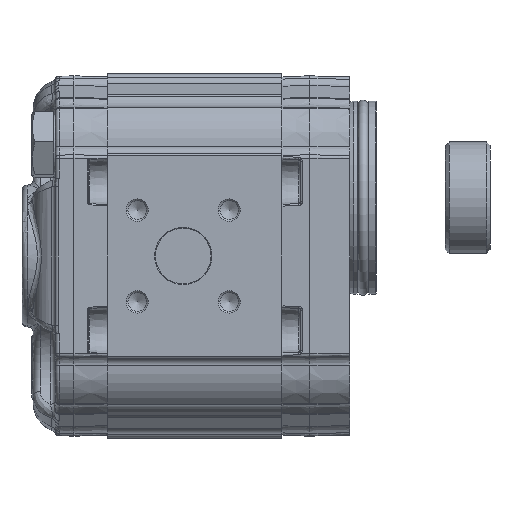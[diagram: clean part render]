
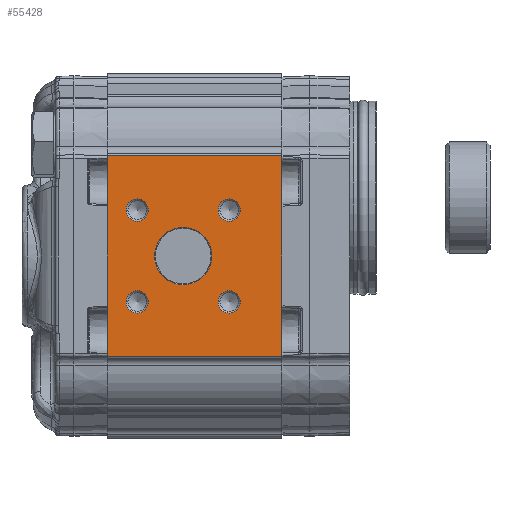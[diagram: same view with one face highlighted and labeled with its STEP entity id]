
A CAD part, left-side view. The second image highlights one B-rep face of the part: STEP entity #55428.
In plain terms, the highlighted planar face has unit normal (-1, 0, 0).
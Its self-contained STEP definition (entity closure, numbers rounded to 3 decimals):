
#3816=LINE('',#86627,#5917);
#3817=LINE('',#86630,#5918);
#3818=LINE('',#86632,#5919);
#3819=LINE('',#86634,#5920);
#5917=VECTOR('',#65821,1000.);
#5918=VECTOR('',#65822,1000.);
#5919=VECTOR('',#65823,1000.);
#5920=VECTOR('',#65824,1000.);
#13653=ORIENTED_EDGE('',*,*,#22654,.T.);
#13654=ORIENTED_EDGE('',*,*,#22655,.T.);
#13655=ORIENTED_EDGE('',*,*,#22656,.T.);
#13656=ORIENTED_EDGE('',*,*,#22657,.T.);
#13657=ORIENTED_EDGE('',*,*,#22658,.T.);
#13658=ORIENTED_EDGE('',*,*,#22659,.F.);
#13659=ORIENTED_EDGE('',*,*,#22660,.F.);
#13660=ORIENTED_EDGE('',*,*,#22661,.T.);
#13661=ORIENTED_EDGE('',*,*,#22662,.T.);
#22654=EDGE_CURVE('',#27475,#27475,#30380,.F.);
#22655=EDGE_CURVE('',#27476,#27476,#30381,.F.);
#22656=EDGE_CURVE('',#27477,#27477,#30382,.F.);
#22657=EDGE_CURVE('',#27478,#27478,#30383,.F.);
#22658=EDGE_CURVE('',#27479,#27479,#30384,.F.);
#22659=EDGE_CURVE('',#27480,#27481,#3816,.T.);
#22660=EDGE_CURVE('',#27482,#27480,#3817,.T.);
#22661=EDGE_CURVE('',#27482,#27483,#3818,.T.);
#22662=EDGE_CURVE('',#27483,#27481,#3819,.T.);
#27475=VERTEX_POINT('',#86618);
#27476=VERTEX_POINT('',#86620);
#27477=VERTEX_POINT('',#86622);
#27478=VERTEX_POINT('',#86624);
#27479=VERTEX_POINT('',#86626);
#27480=VERTEX_POINT('',#86628);
#27481=VERTEX_POINT('',#86629);
#27482=VERTEX_POINT('',#86631);
#27483=VERTEX_POINT('',#86633);
#30380=CIRCLE('',#58907,7.7);
#30381=CIRCLE('',#58908,3.);
#30382=CIRCLE('',#58909,3.);
#30383=CIRCLE('',#58910,3.);
#30384=CIRCLE('',#58911,3.);
#32335=EDGE_LOOP('',(#13653));
#32336=EDGE_LOOP('',(#13654));
#32337=EDGE_LOOP('',(#13655));
#32338=EDGE_LOOP('',(#13656));
#32339=EDGE_LOOP('',(#13657));
#32340=EDGE_LOOP('',(#13658,#13659,#13660,#13661));
#35079=FACE_BOUND('',#32335,.T.);
#35080=FACE_BOUND('',#32336,.T.);
#35081=FACE_BOUND('',#32337,.T.);
#35082=FACE_BOUND('',#32338,.T.);
#35083=FACE_BOUND('',#32339,.T.);
#35084=FACE_BOUND('',#32340,.T.);
#36878=PLANE('',#58906);
#55428=ADVANCED_FACE('',(#35079,#35080,#35081,#35082,#35083,#35084),#36878,
 .T.);
#58906=AXIS2_PLACEMENT_3D('',#86616,#65809,#65810);
#58907=AXIS2_PLACEMENT_3D('',#86617,#65811,#65812);
#58908=AXIS2_PLACEMENT_3D('',#86619,#65813,#65814);
#58909=AXIS2_PLACEMENT_3D('',#86621,#65815,#65816);
#58910=AXIS2_PLACEMENT_3D('',#86623,#65817,#65818);
#58911=AXIS2_PLACEMENT_3D('',#86625,#65819,#65820);
#65809=DIRECTION('',(-1.,0.,0.));
#65810=DIRECTION('',(0.,0.,1.));
#65811=DIRECTION('',(-1.,0.,0.));
#65812=DIRECTION('',(0.,0.,1.));
#65813=DIRECTION('',(-1.,0.,0.));
#65814=DIRECTION('',(0.,0.,1.));
#65815=DIRECTION('',(-1.,0.,0.));
#65816=DIRECTION('',(0.,0.,1.));
#65817=DIRECTION('',(-1.,0.,0.));
#65818=DIRECTION('',(0.,0.,1.));
#65819=DIRECTION('',(-1.,0.,0.));
#65820=DIRECTION('',(0.,0.,1.));
#65821=DIRECTION('',(0.,0.,-1.));
#65822=DIRECTION('',(0.,-1.,0.));
#65823=DIRECTION('',(0.,0.,-1.));
#65824=DIRECTION('',(0.,-1.,0.));
#86616=CARTESIAN_POINT('',(-43.,47.,27.048));
#86617=CARTESIAN_POINT('',(-43.,26.6,0.));
#86618=CARTESIAN_POINT('',(-43.,26.6,7.7));
#86619=CARTESIAN_POINT('',(-43.,38.974,-12.374));
#86620=CARTESIAN_POINT('',(-43.,38.974,-9.374));
#86621=CARTESIAN_POINT('',(-43.,38.974,12.374));
#86622=CARTESIAN_POINT('',(-43.,38.974,15.374));
#86623=CARTESIAN_POINT('',(-43.,14.226,12.374));
#86624=CARTESIAN_POINT('',(-43.,14.226,15.374));
#86625=CARTESIAN_POINT('',(-43.,14.226,-12.374));
#86626=CARTESIAN_POINT('',(-43.,14.226,-9.374));
#86627=CARTESIAN_POINT('',(-43.,0.,27.048));
#86628=CARTESIAN_POINT('',(-43.,0.,27.048));
#86629=CARTESIAN_POINT('',(-43.,0.,-27.048));
#86630=CARTESIAN_POINT('',(-43.,47.,27.048));
#86631=CARTESIAN_POINT('',(-43.,47.,27.048));
#86632=CARTESIAN_POINT('',(-43.,47.,27.048));
#86633=CARTESIAN_POINT('',(-43.,47.,-27.048));
#86634=CARTESIAN_POINT('',(-43.,47.,-27.048));
